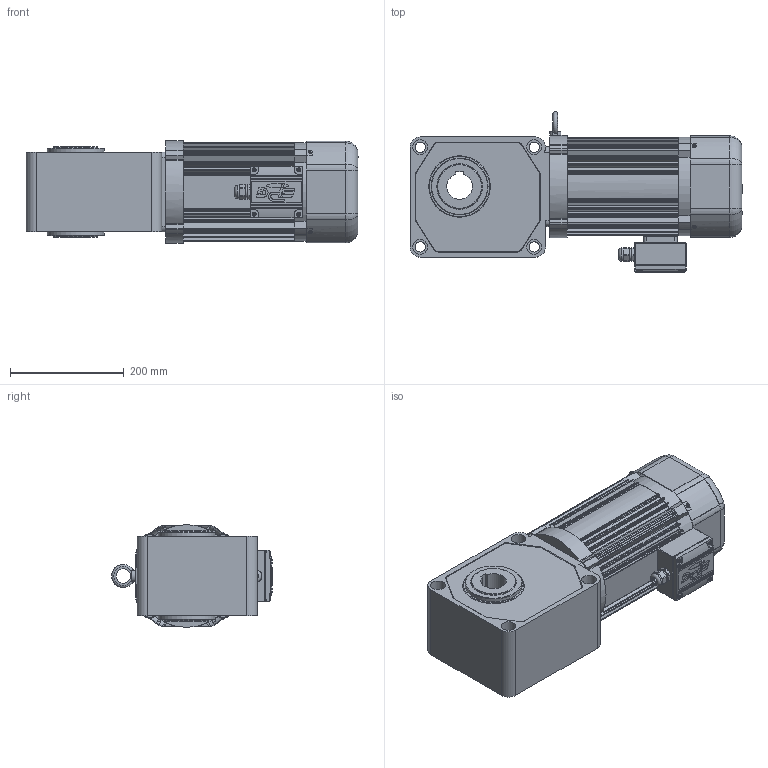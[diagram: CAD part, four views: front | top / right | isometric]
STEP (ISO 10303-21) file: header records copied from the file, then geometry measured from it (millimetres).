
FILE_DESCRIPTION(/* description */ (''),/* implementation_level */ '2;1');
FILE_NAME(/* name */ 'Z:\동력 3D 파일\PCH45_1.5kW_Brake_3D.stp',/* time_stamp */ '2021-11-09T10:23:29+09:00',/* author */ ('jaebok'),/* organization */ (''),/* preprocessor_version */ 'ST-DEVELOPER v18.1',/* originating_system */ 'Autodesk Inventor 2022',/* authorisation */ '');
FILE_SCHEMA (('AUTOMOTIVE_DESIGN { 1 0 10303 214 3 1 1 }'));
Length unit declared in the file: millimetre
Products named in the file (1): 부품32
Bounding box: 582.8 x 281.99 x 180 mm (x, y, z)
Volume: 9757946.8 mm3; surface area: 916552.7 mm2
Topology: 1 solids, 25 shells, 1358 faces, 3612 edges, 2334 vertices
Faces by surface type: plane 660, cylinder 582, cone 50, torus 36, sphere 20, bspline 10
Full cylindrical faces by diameter (mm): 3.25 x1, 3.6 x4, 4 x22, 4.917 x4, 5 x13, 6 x5, 7 x12, 8 x1, 8.8 x1, 10 x3, 12.5 x1, 15 x1, 18 x4, 20 x2, 21 x1, 23.6 x1, 25 x2, 26 x4, 36 x1, 100 x2, 156 x2, 160 x2, 161 x1, 165 x1, 165.4 x2, 168 x4
Entity records: 45099 total; most frequent: CARTESIAN_POINT 9233, DIRECTION 7512, ORIENTED_EDGE 7166, EDGE_CURVE 3583, AXIS2_PLACEMENT_3D 2789, VERTEX_POINT 2333, LINE 1934, VECTOR 1934
